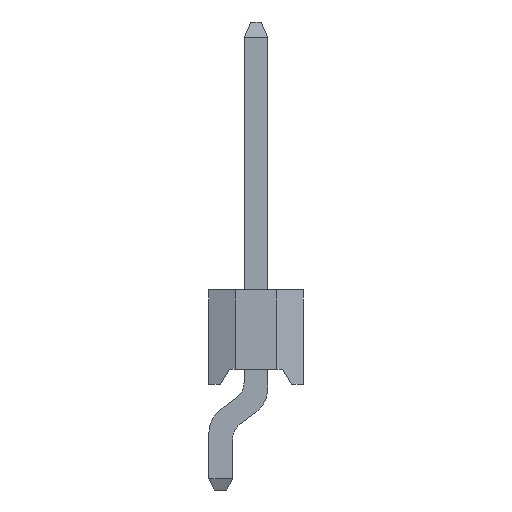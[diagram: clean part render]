
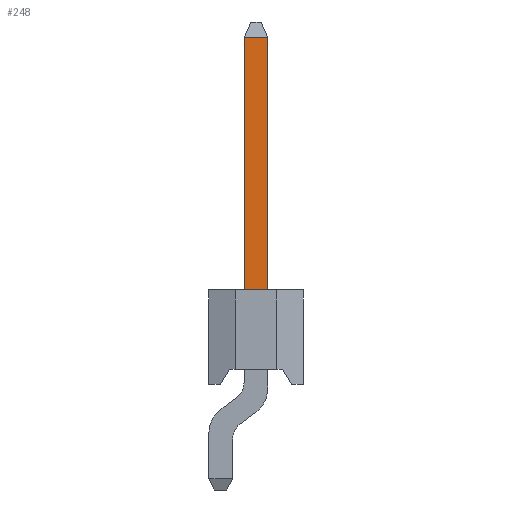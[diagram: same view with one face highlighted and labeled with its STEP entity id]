
A CAD part, left-side view. The second image highlights one B-rep face of the part: STEP entity #248.
In plain terms, the highlighted planar face has unit normal (-1, 0, 0).
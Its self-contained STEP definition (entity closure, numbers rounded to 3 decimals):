
#248=ADVANCED_FACE('',(#1138),#720,.T.);
#720=PLANE('',#8825);
#1138=FACE_OUTER_BOUND('',#1636,.T.);
#1636=EDGE_LOOP('',(#2454,#2455,#2456,#2457));
#2454=ORIENTED_EDGE('',*,*,#5664,.T.);
#2455=ORIENTED_EDGE('',*,*,#5665,.T.);
#2456=ORIENTED_EDGE('',*,*,#5666,.F.);
#2457=ORIENTED_EDGE('',*,*,#5650,.F.);
#4842=VERTEX_POINT('',#12316);
#4843=VERTEX_POINT('',#12317);
#4850=VERTEX_POINT('',#12343);
#4851=VERTEX_POINT('',#12345);
#5650=EDGE_CURVE('',#4842,#4843,#6878,.T.);
#5664=EDGE_CURVE('',#4842,#4850,#6892,.T.);
#5665=EDGE_CURVE('',#4850,#4851,#6893,.T.);
#5666=EDGE_CURVE('',#4843,#4851,#6894,.T.);
#6878=LINE('',#12315,#8002);
#6892=LINE('',#12342,#8016);
#6893=LINE('',#12344,#8017);
#6894=LINE('',#12346,#8018);
#8002=VECTOR('',#9755,1.);
#8016=VECTOR('',#9779,1.);
#8017=VECTOR('',#9780,1.);
#8018=VECTOR('',#9781,1.);
#8825=AXIS2_PLACEMENT_3D('',#12347,#9782,#9783);
#9755=DIRECTION('',(0.,1.,0.));
#9779=DIRECTION('',(0.,0.,1.));
#9780=DIRECTION('',(0.,1.,0.));
#9781=DIRECTION('',(0.,0.,1.));
#9782=DIRECTION('',(-1.,0.,0.));
#9783=DIRECTION('',(0.,0.,1.));
#12315=CARTESIAN_POINT('',(0.955,0.935,2.1));
#12316=CARTESIAN_POINT('',(0.955,0.935,2.1));
#12317=CARTESIAN_POINT('',(0.955,1.565,2.1));
#12342=CARTESIAN_POINT('',(0.955,0.935,9.2));
#12343=CARTESIAN_POINT('',(0.955,0.935,8.8));
#12344=CARTESIAN_POINT('',(0.955,0.935,8.8));
#12345=CARTESIAN_POINT('',(0.955,1.565,8.8));
#12346=CARTESIAN_POINT('',(0.955,1.565,9.2));
#12347=CARTESIAN_POINT('',(0.955,0.935,2.1));
